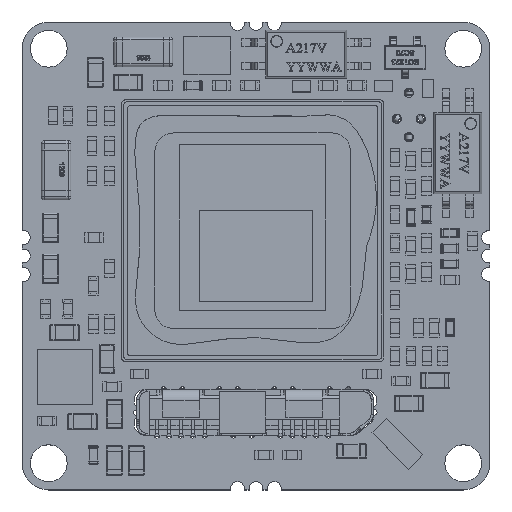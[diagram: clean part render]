
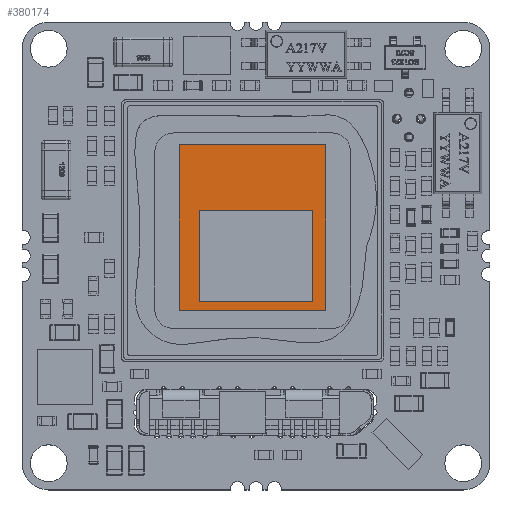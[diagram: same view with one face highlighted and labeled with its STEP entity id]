
A CAD part, top view. The second image highlights one B-rep face of the part: STEP entity #380174.
In plain terms, the highlighted planar face has unit normal (0, 0, 1).
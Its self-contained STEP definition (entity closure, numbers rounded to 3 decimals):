
#379857 = EDGE_CURVE('',#379858,#379860,#379862,.T.);
#379858 = VERTEX_POINT('',#379859);
#379859 = CARTESIAN_POINT('',(0.,0.,-0.9));
#379860 = VERTEX_POINT('',#379861);
#379861 = CARTESIAN_POINT('',(7.95,0.,-0.9));
#379862 = SURFACE_CURVE('',#379863,(#379867,#379879),.PCURVE_S1.);
#379863 = LINE('',#379864,#379865);
#379864 = CARTESIAN_POINT('',(0.,0.,-0.9));
#379865 = VECTOR('',#379866,1.);
#379866 = DIRECTION('',(1.,0.,0.));
#379867 = PCURVE('',#379868,#379873);
#379868 = PLANE('',#379869);
#379869 = AXIS2_PLACEMENT_3D('',#379870,#379871,#379872);
#379870 = CARTESIAN_POINT('',(0.,0.,-0.91));
#379871 = DIRECTION('',(0.,-1.,0.));
#379872 = DIRECTION('',(0.,0.,-1.));
#379873 = DEFINITIONAL_REPRESENTATION('',(#379874),#379878);
#379874 = LINE('',#379875,#379876);
#379875 = CARTESIAN_POINT('',(-0.01,0.));
#379876 = VECTOR('',#379877,1.);
#379877 = DIRECTION('',(0.,1.));
#379878 = ( GEOMETRIC_REPRESENTATION_CONTEXT(2) 
PARAMETRIC_REPRESENTATION_CONTEXT() REPRESENTATION_CONTEXT('2D SPACE',''
  ) );
#379879 = PCURVE('',#379880,#379885);
#379880 = PLANE('',#379881);
#379881 = AXIS2_PLACEMENT_3D('',#379882,#379883,#379884);
#379882 = CARTESIAN_POINT('',(0.,0.,-0.9));
#379883 = DIRECTION('',(0.,0.,1.));
#379884 = DIRECTION('',(1.,0.,0.));
#379885 = DEFINITIONAL_REPRESENTATION('',(#379886),#379890);
#379886 = LINE('',#379887,#379888);
#379887 = CARTESIAN_POINT('',(0.,0.));
#379888 = VECTOR('',#379889,1.);
#379889 = DIRECTION('',(1.,0.));
#379890 = ( GEOMETRIC_REPRESENTATION_CONTEXT(2) 
PARAMETRIC_REPRESENTATION_CONTEXT() REPRESENTATION_CONTEXT('2D SPACE',''
  ) );
#379908 = PLANE('',#379909);
#379909 = AXIS2_PLACEMENT_3D('',#379910,#379911,#379912);
#379910 = CARTESIAN_POINT('',(0.,9.,-0.91));
#379911 = DIRECTION('',(-1.,0.,0.));
#379912 = DIRECTION('',(0.,-1.,0.));
#379962 = PLANE('',#379963);
#379963 = AXIS2_PLACEMENT_3D('',#379964,#379965,#379966);
#379964 = CARTESIAN_POINT('',(7.95,0.,-0.91));
#379965 = DIRECTION('',(1.,0.,0.));
#379966 = DIRECTION('',(0.,1.,0.));
#379977 = EDGE_CURVE('',#379860,#379978,#379980,.T.);
#379978 = VERTEX_POINT('',#379979);
#379979 = CARTESIAN_POINT('',(7.95,9.,-0.9));
#379980 = SURFACE_CURVE('',#379981,(#379985,#379992),.PCURVE_S1.);
#379981 = LINE('',#379982,#379983);
#379982 = CARTESIAN_POINT('',(7.95,0.,-0.9));
#379983 = VECTOR('',#379984,1.);
#379984 = DIRECTION('',(0.,1.,0.));
#379985 = PCURVE('',#379962,#379986);
#379986 = DEFINITIONAL_REPRESENTATION('',(#379987),#379991);
#379987 = LINE('',#379988,#379989);
#379988 = CARTESIAN_POINT('',(0.,0.01));
#379989 = VECTOR('',#379990,1.);
#379990 = DIRECTION('',(1.,0.));
#379991 = ( GEOMETRIC_REPRESENTATION_CONTEXT(2) 
PARAMETRIC_REPRESENTATION_CONTEXT() REPRESENTATION_CONTEXT('2D SPACE',''
  ) );
#379992 = PCURVE('',#379880,#379993);
#379993 = DEFINITIONAL_REPRESENTATION('',(#379994),#379998);
#379994 = LINE('',#379995,#379996);
#379995 = CARTESIAN_POINT('',(7.95,0.));
#379996 = VECTOR('',#379997,1.);
#379997 = DIRECTION('',(0.,1.));
#379998 = ( GEOMETRIC_REPRESENTATION_CONTEXT(2) 
PARAMETRIC_REPRESENTATION_CONTEXT() REPRESENTATION_CONTEXT('2D SPACE',''
  ) );
#380038 = PLANE('',#380039);
#380039 = AXIS2_PLACEMENT_3D('',#380040,#380041,#380042);
#380040 = CARTESIAN_POINT('',(7.95,9.,-0.91));
#380041 = DIRECTION('',(0.,1.,0.));
#380042 = DIRECTION('',(0.,0.,1.));
#380053 = EDGE_CURVE('',#379978,#380054,#380056,.T.);
#380054 = VERTEX_POINT('',#380055);
#380055 = CARTESIAN_POINT('',(0.,9.,-0.9));
#380056 = SURFACE_CURVE('',#380057,(#380061,#380068),.PCURVE_S1.);
#380057 = LINE('',#380058,#380059);
#380058 = CARTESIAN_POINT('',(7.95,9.,-0.9));
#380059 = VECTOR('',#380060,1.);
#380060 = DIRECTION('',(-1.,0.,0.));
#380061 = PCURVE('',#380038,#380062);
#380062 = DEFINITIONAL_REPRESENTATION('',(#380063),#380067);
#380063 = LINE('',#380064,#380065);
#380064 = CARTESIAN_POINT('',(0.01,0.));
#380065 = VECTOR('',#380066,1.);
#380066 = DIRECTION('',(0.,-1.));
#380067 = ( GEOMETRIC_REPRESENTATION_CONTEXT(2) 
PARAMETRIC_REPRESENTATION_CONTEXT() REPRESENTATION_CONTEXT('2D SPACE',''
  ) );
#380068 = PCURVE('',#379880,#380069);
#380069 = DEFINITIONAL_REPRESENTATION('',(#380070),#380074);
#380070 = LINE('',#380071,#380072);
#380071 = CARTESIAN_POINT('',(7.95,9.));
#380072 = VECTOR('',#380073,1.);
#380073 = DIRECTION('',(-1.,0.));
#380074 = ( GEOMETRIC_REPRESENTATION_CONTEXT(2) 
PARAMETRIC_REPRESENTATION_CONTEXT() REPRESENTATION_CONTEXT('2D SPACE',''
  ) );
#380124 = EDGE_CURVE('',#380054,#379858,#380125,.T.);
#380125 = SURFACE_CURVE('',#380126,(#380130,#380137),.PCURVE_S1.);
#380126 = LINE('',#380127,#380128);
#380127 = CARTESIAN_POINT('',(0.,9.,-0.9));
#380128 = VECTOR('',#380129,1.);
#380129 = DIRECTION('',(0.,-1.,0.));
#380130 = PCURVE('',#379908,#380131);
#380131 = DEFINITIONAL_REPRESENTATION('',(#380132),#380136);
#380132 = LINE('',#380133,#380134);
#380133 = CARTESIAN_POINT('',(0.,0.01));
#380134 = VECTOR('',#380135,1.);
#380135 = DIRECTION('',(1.,0.));
#380136 = ( GEOMETRIC_REPRESENTATION_CONTEXT(2) 
PARAMETRIC_REPRESENTATION_CONTEXT() REPRESENTATION_CONTEXT('2D SPACE',''
  ) );
#380137 = PCURVE('',#379880,#380138);
#380138 = DEFINITIONAL_REPRESENTATION('',(#380139),#380143);
#380139 = LINE('',#380140,#380141);
#380140 = CARTESIAN_POINT('',(0.,9.));
#380141 = VECTOR('',#380142,1.);
#380142 = DIRECTION('',(0.,-1.));
#380143 = ( GEOMETRIC_REPRESENTATION_CONTEXT(2) 
PARAMETRIC_REPRESENTATION_CONTEXT() REPRESENTATION_CONTEXT('2D SPACE',''
  ) );
#380174 = ADVANCED_FACE('',(#380175),#379880,.T.);
#380175 = FACE_BOUND('',#380176,.T.);
#380176 = EDGE_LOOP('',(#380177,#380178,#380179,#380180));
#380177 = ORIENTED_EDGE('',*,*,#379857,.T.);
#380178 = ORIENTED_EDGE('',*,*,#379977,.T.);
#380179 = ORIENTED_EDGE('',*,*,#380053,.T.);
#380180 = ORIENTED_EDGE('',*,*,#380124,.T.);
